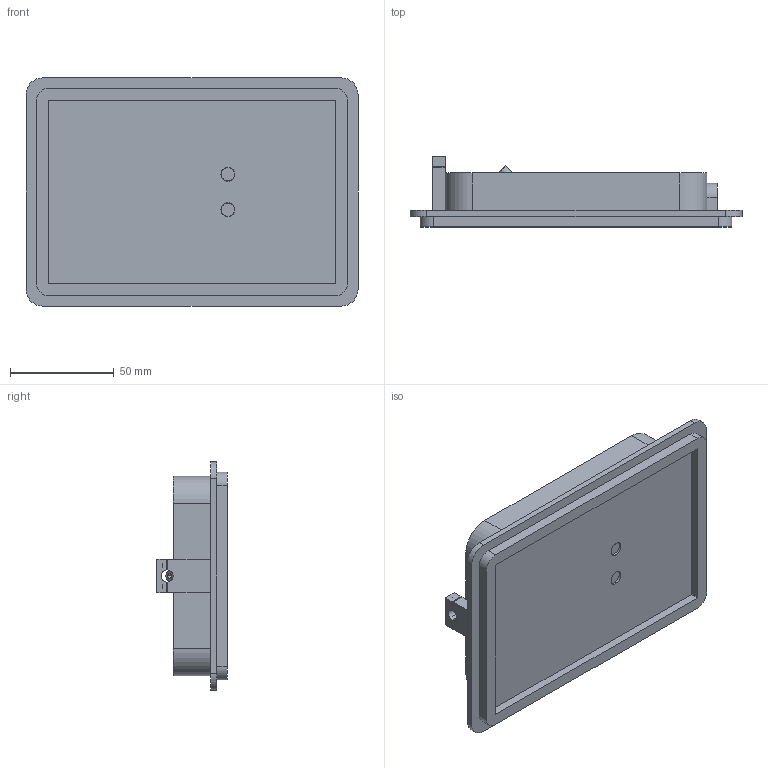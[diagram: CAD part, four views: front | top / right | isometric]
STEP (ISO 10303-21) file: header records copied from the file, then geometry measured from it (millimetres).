
FILE_DESCRIPTION (( 'STEP AP203' ), '1' );
FILE_NAME ('Fish Chamber Assembly No Tubing Adjustment.STEP', '2026-08-06T17:52:51', ( '' ), ( '' ), 'SwSTEP 2.0', 'SolidWorks 2025', '' );
FILE_SCHEMA (( 'CONFIG_CONTROL_DESIGN' ));
Length unit declared in the file: millimetre
Products named in the file (4): fish chamber RevC; magnet; Fish Chamber Assembly No Tubing Adjustment; Fish Chamber
Assembly tree (4 placements, depth 3):
  Fish Chamber Assembly No Tubing Adjustment
    Fish Chamber
      fish chamber RevC
      magnet  x2
Bounding box: 159.77 x 33.84 x 109.73 mm (x, y, z)
Volume: 115000.7 mm3; surface area: 67614 mm2
Topology: 4 solids, 4 shells, 182 faces, 470 edges, 304 vertices
Faces by surface type: plane 100, cylinder 74, torus 4, cone 4
Entity records: 5910 total; most frequent: DIRECTION 978, CARTESIAN_POINT 958, ORIENTED_EDGE 920, EDGE_CURVE 460, AXIS2_PLACEMENT_3D 336, LINE 306, VECTOR 306, VERTEX_POINT 300
